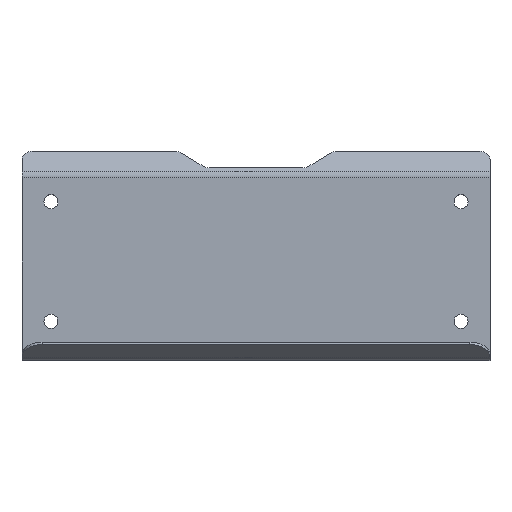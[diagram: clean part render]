
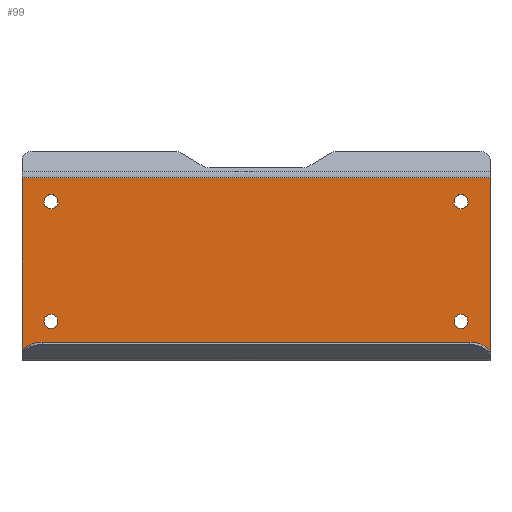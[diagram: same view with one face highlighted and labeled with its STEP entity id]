
A CAD part, top view. The second image highlights one B-rep face of the part: STEP entity #99.
In plain terms, the highlighted planar face has unit normal (0, 0, 1).
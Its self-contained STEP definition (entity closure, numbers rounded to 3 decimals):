
#7 = DIRECTION ( 'NONE',  ( 0., 0., -1. ) ) ;
#36 = VERTEX_POINT ( 'NONE', #1305 ) ;
#50 = EDGE_LOOP ( 'NONE', ( #169 ) ) ;
#63 = VECTOR ( 'NONE', #1288, 1000. ) ;
#99 = ADVANCED_FACE ( 'NONE', ( #500, #902, #1235, #416, #909 ), #811, .F. ) ;
#111 = CIRCLE ( 'NONE', #495, 3.5 ) ;
#118 = VERTEX_POINT ( 'NONE', #920 ) ;
#169 = ORIENTED_EDGE ( 'NONE', *, *, #755, .F. ) ;
#187 = VERTEX_POINT ( 'NONE', #376 ) ;
#209 = VERTEX_POINT ( 'NONE', #222 ) ;
#222 = CARTESIAN_POINT ( 'NONE',  ( 102., -142.6, 13.2 ) ) ;
#226 = CARTESIAN_POINT ( 'NONE',  ( 116.4, -164., 13.2 ) ) ;
#228 = CARTESIAN_POINT ( 'NONE',  ( -116.4, -164., 13.2 ) ) ;
#263 = ORIENTED_EDGE ( 'NONE', *, *, #497, .F. ) ;
#295 = EDGE_CURVE ( 'NONE', #487, #187, #476, .T. ) ;
#331 = EDGE_CURVE ( 'NONE', #209, #209, #1279, .T. ) ;
#337 = EDGE_CURVE ( 'NONE', #187, #861, #1105, .T. ) ;
#338 = ORIENTED_EDGE ( 'NONE', *, *, #1210, .T. ) ;
#371 = EDGE_CURVE ( 'NONE', #118, #118, #1255, .T. ) ;
#376 = CARTESIAN_POINT ( 'NONE',  ( -116.4, -160.5, 13.2 ) ) ;
#399 = CARTESIAN_POINT ( 'NONE',  ( 116.4, -160.5, 13.2 ) ) ;
#408 = ORIENTED_EDGE ( 'NONE', *, *, #610, .F. ) ;
#416 = FACE_BOUND ( 'NONE', #1068, .T. ) ;
#420 = CARTESIAN_POINT ( 'NONE',  ( -116.4, -74.581, 13.2 ) ) ;
#437 = CARTESIAN_POINT ( 'NONE',  ( -102., -86.5, 13.2 ) ) ;
#476 = LINE ( 'NONE', #228, #63 ) ;
#487 = VERTEX_POINT ( 'NONE', #420 ) ;
#488 = DIRECTION ( 'NONE',  ( 0., 1., 0. ) ) ;
#495 = AXIS2_PLACEMENT_3D ( 'NONE', #437, #729, #943 ) ;
#497 = EDGE_CURVE ( 'NONE', #523, #523, #111, .T. ) ;
#498 = DIRECTION ( 'NONE',  ( 1., 0., 0. ) ) ;
#500 = FACE_BOUND ( 'NONE', #50, .T. ) ;
#522 = DIRECTION ( 'NONE',  ( 0., -1., 0. ) ) ;
#523 = VERTEX_POINT ( 'NONE', #1209 ) ;
#610 = EDGE_CURVE ( 'NONE', #36, #861, #1027, .T. ) ;
#612 = CARTESIAN_POINT ( 'NONE',  ( 102., -83., 13.2 ) ) ;
#618 = DIRECTION ( 'NONE',  ( 0., 1., 0. ) ) ;
#661 = AXIS2_PLACEMENT_3D ( 'NONE', #1001, #802, #1208 ) ;
#676 = ORIENTED_EDGE ( 'NONE', *, *, #337, .T. ) ;
#696 = DIRECTION ( 'NONE',  ( 0., 0., 1. ) ) ;
#713 = VECTOR ( 'NONE', #1297, 1000. ) ;
#729 = DIRECTION ( 'NONE',  ( 0., 0., 1. ) ) ;
#755 = EDGE_CURVE ( 'NONE', #1216, #1216, #1174, .T. ) ;
#781 = DIRECTION ( 'NONE',  ( 0., 1., 0. ) ) ;
#802 = DIRECTION ( 'NONE',  ( 0., 0., 1. ) ) ;
#811 = PLANE ( 'NONE',  #1084 ) ;
#818 = CARTESIAN_POINT ( 'NONE',  ( 116.4, -164., 13.2 ) ) ;
#861 = VERTEX_POINT ( 'NONE', #1111 ) ;
#882 = ORIENTED_EDGE ( 'NONE', *, *, #371, .F. ) ;
#883 = EDGE_LOOP ( 'NONE', ( #882 ) ) ;
#884 = LINE ( 'NONE', #1190, #713 ) ;
#902 = FACE_BOUND ( 'NONE', #990, .T. ) ;
#909 = FACE_OUTER_BOUND ( 'NONE', #1115, .T. ) ;
#920 = CARTESIAN_POINT ( 'NONE',  ( -102., -142.6, 13.2 ) ) ;
#927 = ORIENTED_EDGE ( 'NONE', *, *, #331, .F. ) ;
#943 = DIRECTION ( 'NONE',  ( 0., 1., 0. ) ) ;
#990 = EDGE_LOOP ( 'NONE', ( #927 ) ) ;
#1001 = CARTESIAN_POINT ( 'NONE',  ( 102., -146.1, 13.2 ) ) ;
#1027 = LINE ( 'NONE', #226, #1046 ) ;
#1046 = VECTOR ( 'NONE', #522, 1000. ) ;
#1065 = ORIENTED_EDGE ( 'NONE', *, *, #295, .T. ) ;
#1067 = AXIS2_PLACEMENT_3D ( 'NONE', #1214, #1099, #781 ) ;
#1068 = EDGE_LOOP ( 'NONE', ( #263 ) ) ;
#1084 = AXIS2_PLACEMENT_3D ( 'NONE', #818, #7, #618 ) ;
#1099 = DIRECTION ( 'NONE',  ( 0., 0., 1. ) ) ;
#1105 = LINE ( 'NONE', #399, #1195 ) ;
#1111 = CARTESIAN_POINT ( 'NONE',  ( 116.4, -160.5, 13.2 ) ) ;
#1115 = EDGE_LOOP ( 'NONE', ( #1065, #676, #408, #338 ) ) ;
#1128 = AXIS2_PLACEMENT_3D ( 'NONE', #1287, #696, #488 ) ;
#1174 = CIRCLE ( 'NONE', #1128, 3.5 ) ;
#1190 = CARTESIAN_POINT ( 'NONE',  ( 116.4, -74.581, 13.2 ) ) ;
#1195 = VECTOR ( 'NONE', #498, 1000. ) ;
#1208 = DIRECTION ( 'NONE',  ( 0., 1., 0. ) ) ;
#1209 = CARTESIAN_POINT ( 'NONE',  ( -102., -83., 13.2 ) ) ;
#1210 = EDGE_CURVE ( 'NONE', #36, #487, #884, .T. ) ;
#1214 = CARTESIAN_POINT ( 'NONE',  ( -102., -146.1, 13.2 ) ) ;
#1216 = VERTEX_POINT ( 'NONE', #612 ) ;
#1235 = FACE_BOUND ( 'NONE', #883, .T. ) ;
#1255 = CIRCLE ( 'NONE', #1067, 3.5 ) ;
#1279 = CIRCLE ( 'NONE', #661, 3.5 ) ;
#1287 = CARTESIAN_POINT ( 'NONE',  ( 102., -86.5, 13.2 ) ) ;
#1288 = DIRECTION ( 'NONE',  ( 0., -1., 0. ) ) ;
#1297 = DIRECTION ( 'NONE',  ( -1., 0., 0. ) ) ;
#1305 = CARTESIAN_POINT ( 'NONE',  ( 116.4, -74.581, 13.2 ) ) ;
